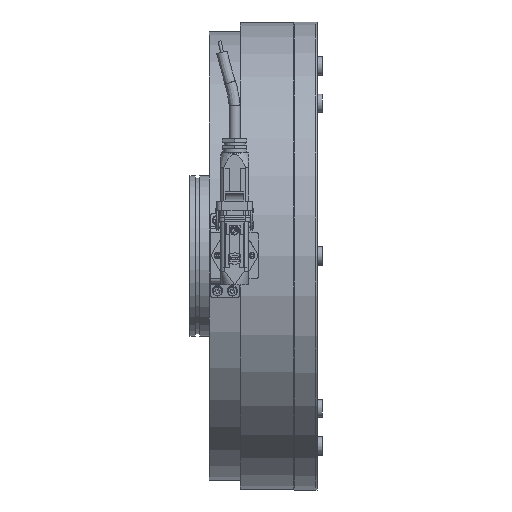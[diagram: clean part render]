
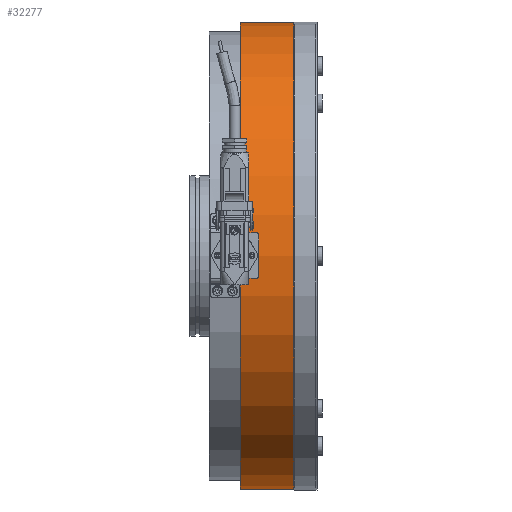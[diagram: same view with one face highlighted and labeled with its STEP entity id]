
A CAD part, top view. The second image highlights one B-rep face of the part: STEP entity #32277.
In plain terms, the highlighted cylindrical face has radius 204 mm (diameter 408 mm), a full revolution.
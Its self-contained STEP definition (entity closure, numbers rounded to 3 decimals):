
#3256=FACE_OUTER_BOUND('',#5209,.T.);
#5209=EDGE_LOOP('',(#28271,#28272,#28273,#28274,#28275,#28276));
#6730=CIRCLE('',#35351,204.);
#6731=CIRCLE('',#35352,204.);
#6760=CIRCLE('',#35391,204.);
#6761=CIRCLE('',#35392,204.);
#9414=LINE('',#54670,#12107);
#12107=VECTOR('',#44174,204.);
#15087=VERTEX_POINT('',#54590);
#15088=VERTEX_POINT('',#54591);
#15117=VERTEX_POINT('',#54665);
#15118=VERTEX_POINT('',#54666);
#19492=EDGE_CURVE('',#15087,#15088,#6730,.T.);
#19493=EDGE_CURVE('',#15088,#15087,#6731,.T.);
#19527=EDGE_CURVE('',#15117,#15118,#6760,.T.);
#19528=EDGE_CURVE('',#15118,#15117,#6761,.T.);
#19529=EDGE_CURVE('',#15088,#15118,#9414,.T.);
#28271=ORIENTED_EDGE('',*,*,#19492,.F.);
#28272=ORIENTED_EDGE('',*,*,#19493,.F.);
#28273=ORIENTED_EDGE('',*,*,#19529,.T.);
#28274=ORIENTED_EDGE('',*,*,#19528,.T.);
#28275=ORIENTED_EDGE('',*,*,#19527,.T.);
#28276=ORIENTED_EDGE('',*,*,#19529,.F.);
#29096=CYLINDRICAL_SURFACE('',#35393,204.);
#32277=ADVANCED_FACE('',(#3256),#29096,.T.);
#35351=AXIS2_PLACEMENT_3D('',#54592,#44083,#44084);
#35352=AXIS2_PLACEMENT_3D('',#54593,#44085,#44086);
#35391=AXIS2_PLACEMENT_3D('',#54667,#44168,#44169);
#35392=AXIS2_PLACEMENT_3D('',#54668,#44170,#44171);
#35393=AXIS2_PLACEMENT_3D('',#54669,#44172,#44173);
#44083=DIRECTION('center_axis',(1.,0.,0.));
#44084=DIRECTION('ref_axis',(0.,0.,
-1.));
#44085=DIRECTION('center_axis',(1.,0.,0.));
#44086=DIRECTION('ref_axis',(0.,0.,
-1.));
#44168=DIRECTION('center_axis',(1.,0.,0.));
#44169=DIRECTION('ref_axis',(0.,0.,
-1.));
#44170=DIRECTION('center_axis',(1.,0.,0.));
#44171=DIRECTION('ref_axis',(0.,0.,
-1.));
#44172=DIRECTION('center_axis',(1.,0.,0.));
#44173=DIRECTION('ref_axis',(0.,0.,
-1.));
#44174=DIRECTION('',(-1.,0.,0.));
#54590=CARTESIAN_POINT('',(47.85,0.,-204.));
#54591=CARTESIAN_POINT('',(47.85,0.,204.));
#54592=CARTESIAN_POINT('Origin',(47.85,0.,
0.));
#54593=CARTESIAN_POINT('Origin',(47.85,0.,
0.));
#54665=CARTESIAN_POINT('',(1.15,0.,-204.));
#54666=CARTESIAN_POINT('',(1.15,0.,204.));
#54667=CARTESIAN_POINT('Origin',(1.15,0.,
0.));
#54668=CARTESIAN_POINT('Origin',(1.15,0.,
0.));
#54669=CARTESIAN_POINT('Origin',(24.5,0.,
0.));
#54670=CARTESIAN_POINT('',(24.5,0.,204.));
